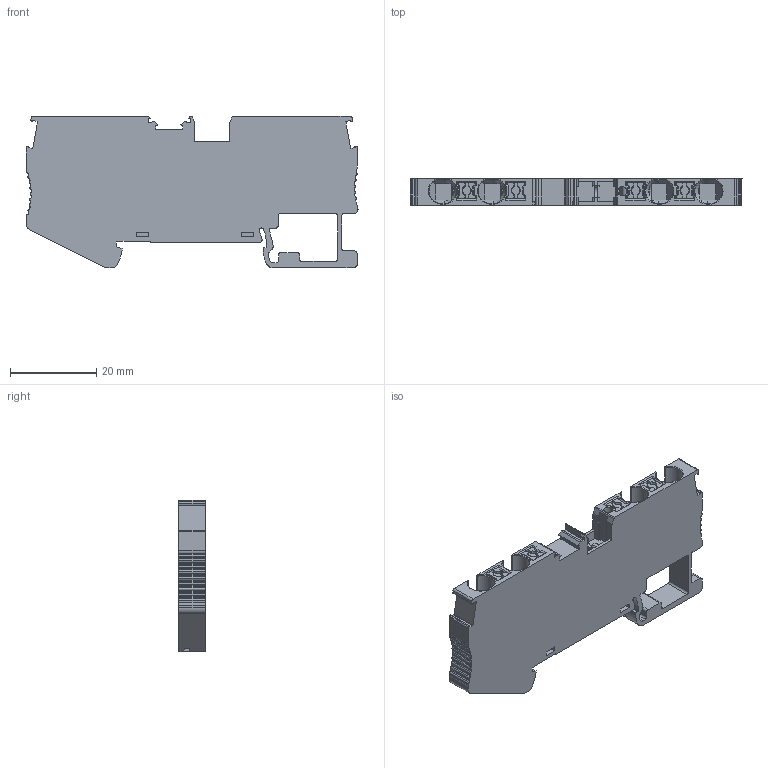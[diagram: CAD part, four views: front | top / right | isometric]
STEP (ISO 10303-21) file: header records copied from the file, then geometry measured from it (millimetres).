
FILE_DESCRIPTION((''),'2;1');
FILE_NAME('ADMI52F4AE488O2I_10','2024-04-01T15:35:54',('Administrator'),(''),'CREO PARAMETRIC BY PTC INC, 2018050','CREO PARAMETRIC BY PTC INC, 2018050','');
FILE_SCHEMA(('CONFIG_CONTROL_DESIGN'));
Length unit declared in the file: millimetre
Products named in the file (1): ADMI52F4AE488O2I_10
Bounding box: 77.04 x 6.2 x 35.25 mm (x, y, z)
Volume: 11459.7 mm3; surface area: 8448.7 mm2
Topology: 1 solids, 4 shells, 893 faces, 2516 edges, 1642 vertices
Faces by surface type: plane 538, cylinder 299, torus 24, cone 24, bspline 8
Entity records: 29683 total; most frequent: CARTESIAN_POINT 6533, ORIENTED_EDGE 5016, DIRECTION 4614, EDGE_CURVE 2508, VECTOR 1746, LINE 1746, VERTEX_POINT 1642, AXIS2_PLACEMENT_3D 1434
